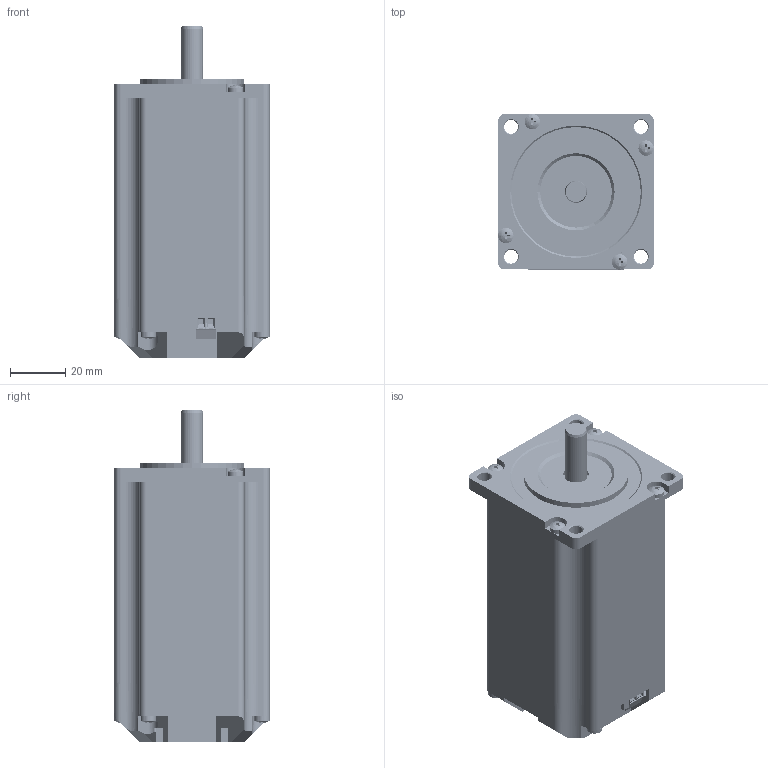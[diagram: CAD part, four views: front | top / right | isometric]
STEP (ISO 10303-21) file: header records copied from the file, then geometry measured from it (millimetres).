
FILE_DESCRIPTION((''),'2;1');
FILE_NAME('IST57-FD_SW0001','2024-10-15T13:56:53',('wuyong'),(''),'CREO PARAMETRIC BY PTC INC, 2017110','CREO PARAMETRIC BY PTC INC, 2017110','');
FILE_SCHEMA(('CONFIG_CONTROL_DESIGN'));
Products named in the file (1): IST57-FD_SW0001
Bounding box: 56.54 x 56.54 x 120.5 mm (x, y, z)
Surface area: 90982.9 mm2 (no closed solid volume)
Topology: 0 solids, 6965 shells, 13665 faces, 59922 edges, 52731 vertices
Faces by surface type: cylinder 9134, plane 4354, torus 117, cone 29, sphere 25, bspline 4, extrusion 2
Entity records: 622979 total; most frequent: CARTESIAN_POINT 151990, DIRECTION 100114, ORIENTED_EDGE 68501, EDGE_CURVE 59466, VERTEX_POINT 52511, VECTOR 35224, LINE 35222, AXIS2_PLACEMENT_3D 32445
